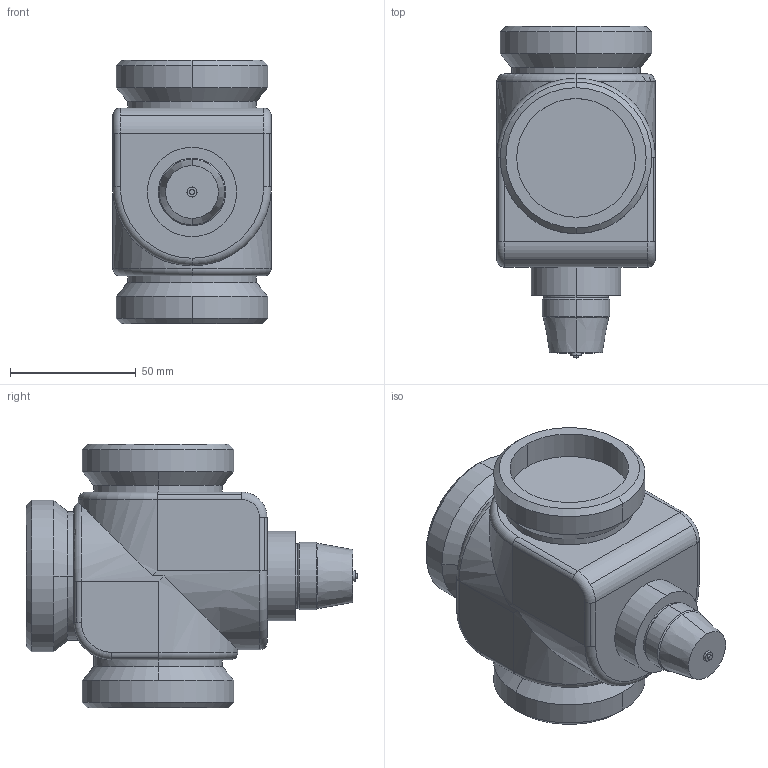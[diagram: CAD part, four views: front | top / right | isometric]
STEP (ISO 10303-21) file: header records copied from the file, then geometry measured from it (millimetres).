
FILE_DESCRIPTION((''),'2;1');
FILE_NAME('000313.stp','2006-09-29T17:26:54',(''),(''),'Mechanical Desktop 2006','Mechanical Desktop 2006',', , ');
FILE_SCHEMA(('AUTOMOTIVE_DESIGN { 1 2 10303 214 0 1 1 1 }'));
Length unit declared in the file: millimetre
Products named in the file (1): Product
Bounding box: 63.06 x 132 x 105 mm (x, y, z)
Volume: 406785.9 mm3; surface area: 57397.1 mm2
Topology: 10 solids, 10 shells, 112 faces, 241 edges, 150 vertices
Faces by surface type: cylinder 42, plane 26, bspline 18, cone 14, torus 12
Entity records: 3460 total; most frequent: CARTESIAN_POINT 956, DIRECTION 544, ORIENTED_EDGE 482, EDGE_CURVE 241, AXIS2_PLACEMENT_3D 228, VERTEX_POINT 150, CIRCLE 126, EDGE_LOOP 119
